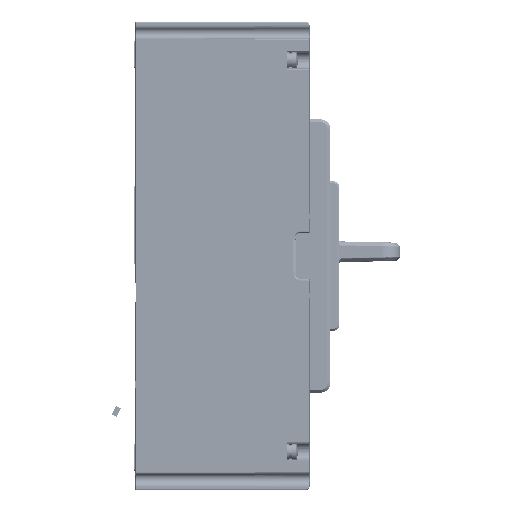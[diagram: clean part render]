
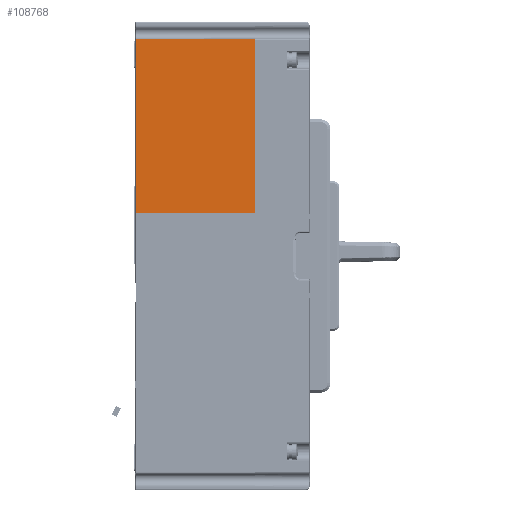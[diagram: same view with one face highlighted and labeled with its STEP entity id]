
A CAD part, left-side view. The second image highlights one B-rep face of the part: STEP entity #108768.
In plain terms, the highlighted planar face has unit normal (-1, 0, 0) as drawn and (0, 0, 1) by its records, which use the part's own axes.
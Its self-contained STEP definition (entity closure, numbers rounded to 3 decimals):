
#2554=DIRECTION('',(1.,0.,0.));
#2555=VECTOR('',#2554,95.75);
#2556=CARTESIAN_POINT('',(-119.25,-44.4,75.));
#2557=LINE('',#2556,#2555);
#38977=DIRECTION('',(1.,0.,0.));
#38978=VECTOR('',#38977,95.75);
#38979=CARTESIAN_POINT('',(-119.25,20.8,75.));
#38980=LINE('',#38979,#38978);
#38981=DIRECTION('',(0.,-1.,0.));
#38982=VECTOR('',#38981,65.2);
#38983=CARTESIAN_POINT('',(-23.5,20.8,75.));
#38984=LINE('',#38983,#38982);
#38985=DIRECTION('',(0.,-1.,0.));
#38986=VECTOR('',#38985,65.2);
#38987=CARTESIAN_POINT('',(-119.25,20.8,75.));
#38988=LINE('',#38987,#38986);
#42232=CARTESIAN_POINT('',(-119.25,-44.4,75.));
#42233=CARTESIAN_POINT('',(-23.5,-44.4,75.));
#42234=VERTEX_POINT('',#42232);
#42235=VERTEX_POINT('',#42233);
#42236=CARTESIAN_POINT('',(-119.25,20.8,75.));
#42237=VERTEX_POINT('',#42236);
#42238=CARTESIAN_POINT('',(-23.5,20.8,75.));
#42239=VERTEX_POINT('',#42238);
#108756=CARTESIAN_POINT('',(0.,0.,75.));
#108757=DIRECTION('',(0.,0.,1.));
#108758=DIRECTION('',(1.,0.,0.));
#108759=AXIS2_PLACEMENT_3D('',#108756,#108757,#108758);
#108760=PLANE('',#108759);
#108761=ORIENTED_EDGE('',*,*,#56764,.F.);
#108763=ORIENTED_EDGE('',*,*,#108762,.F.);
#108764=ORIENTED_EDGE('',*,*,#56900,.T.);
#108765=ORIENTED_EDGE('',*,*,#56748,.T.);
#108766=EDGE_LOOP('',(#108761,#108763,#108764,#108765));
#108767=FACE_OUTER_BOUND('',#108766,.F.);
#108768=ADVANCED_FACE('',(#108767),#108760,.T.);
#56748=EDGE_CURVE('',#42239,#42235,#38984,.T.);
#56764=EDGE_CURVE('',#42234,#42235,#2557,.T.);
#56900=EDGE_CURVE('',#42237,#42239,#38980,.T.);
#108762=EDGE_CURVE('',#42237,#42234,#38988,.T.);
